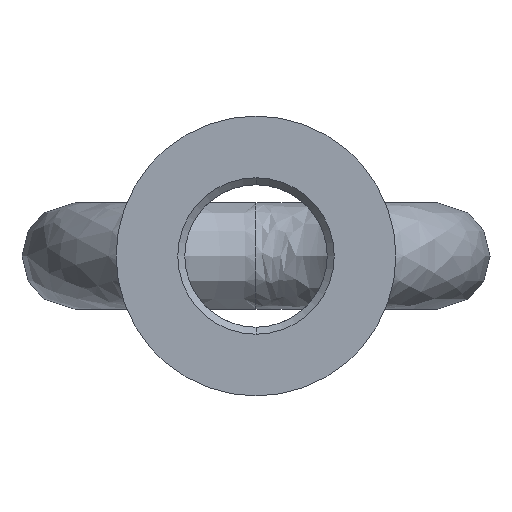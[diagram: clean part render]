
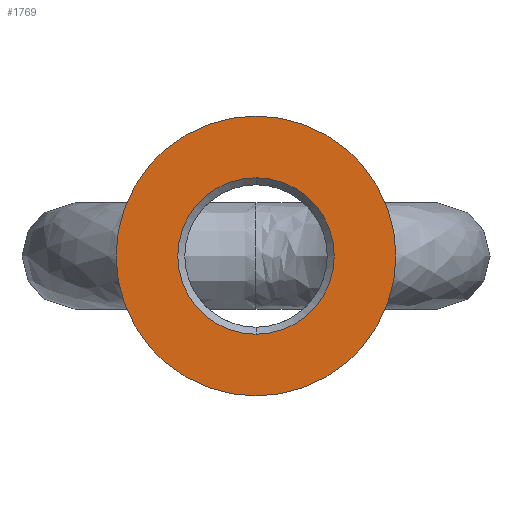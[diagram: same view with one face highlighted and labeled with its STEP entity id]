
A CAD part, front view. The second image highlights one B-rep face of the part: STEP entity #1769.
In plain terms, the highlighted planar face has unit normal (0, -1, 0).
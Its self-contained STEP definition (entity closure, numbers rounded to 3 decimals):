
#130 = DIRECTION ( 'NONE',  ( 0., 0., -1. ) ) ;
#134 = CIRCLE ( 'NONE', #2923, 55. ) ;
#355 = DIRECTION ( 'NONE',  ( 0., 1., 0. ) ) ;
#414 = CARTESIAN_POINT ( 'NONE',  ( 0., 0., -55. ) ) ;
#419 = AXIS2_PLACEMENT_3D ( 'NONE', #850, #355, #2281 ) ;
#482 = PLANE ( 'NONE',  #801 ) ;
#662 = DIRECTION ( 'NONE',  ( 0., 0., 1. ) ) ;
#714 = CARTESIAN_POINT ( 'NONE',  ( 0., 0., 0. ) ) ;
#801 = AXIS2_PLACEMENT_3D ( 'NONE', #714, #1830, #2660 ) ;
#850 = CARTESIAN_POINT ( 'NONE',  ( 0., 0., 0. ) ) ;
#950 = CARTESIAN_POINT ( 'NONE',  ( 0., 0., -30.75 ) ) ;
#1007 = EDGE_LOOP ( 'NONE', ( #2984, #1208 ) ) ;
#1035 = CIRCLE ( 'NONE', #419, 55. ) ;
#1070 = VERTEX_POINT ( 'NONE', #950 ) ;
#1176 = CARTESIAN_POINT ( 'NONE',  ( 0., 0., 0. ) ) ;
#1208 = ORIENTED_EDGE ( 'NONE', *, *, #2538, .F. ) ;
#1280 = VERTEX_POINT ( 'NONE', #1837 ) ;
#1392 = ORIENTED_EDGE ( 'NONE', *, *, #2345, .T. ) ;
#1402 = DIRECTION ( 'NONE',  ( 0., 1., 0. ) ) ;
#1769 = ADVANCED_FACE ( 'NONE', ( #3142, #3466 ), #482, .T. ) ;
#1827 = VERTEX_POINT ( 'NONE', #414 ) ;
#1830 = DIRECTION ( 'NONE',  ( 0., -1., 0. ) ) ;
#1837 = CARTESIAN_POINT ( 'NONE',  ( 0., 0., 55. ) ) ;
#1856 = EDGE_CURVE ( 'NONE', #3524, #1070, #3028, .T. ) ;
#1942 = CIRCLE ( 'NONE', #2695, 30.75 ) ;
#1976 = DIRECTION ( 'NONE',  ( 0., 1., 0. ) ) ;
#2151 = CARTESIAN_POINT ( 'NONE',  ( 0., 0., 0. ) ) ;
#2281 = DIRECTION ( 'NONE',  ( 0., 0., 1. ) ) ;
#2345 = EDGE_CURVE ( 'NONE', #1070, #3524, #1942, .T. ) ;
#2373 = EDGE_CURVE ( 'NONE', #1827, #1280, #1035, .T. ) ;
#2498 = DIRECTION ( 'NONE',  ( 0., 0., -1. ) ) ;
#2506 = ORIENTED_EDGE ( 'NONE', *, *, #1856, .T. ) ;
#2524 = CARTESIAN_POINT ( 'NONE',  ( 0., 0., 30.75 ) ) ;
#2538 = EDGE_CURVE ( 'NONE', #1280, #1827, #134, .T. ) ;
#2660 = DIRECTION ( 'NONE',  ( 0., 0., -1. ) ) ;
#2695 = AXIS2_PLACEMENT_3D ( 'NONE', #2151, #1976, #2498 ) ;
#2877 = DIRECTION ( 'NONE',  ( 0., 1., 0. ) ) ;
#2923 = AXIS2_PLACEMENT_3D ( 'NONE', #1176, #1402, #662 ) ;
#2984 = ORIENTED_EDGE ( 'NONE', *, *, #2373, .F. ) ;
#3028 = CIRCLE ( 'NONE', #3320, 30.75 ) ;
#3106 = CARTESIAN_POINT ( 'NONE',  ( 0., 0., 0. ) ) ;
#3142 = FACE_BOUND ( 'NONE', #3274, .T. ) ;
#3274 = EDGE_LOOP ( 'NONE', ( #1392, #2506 ) ) ;
#3320 = AXIS2_PLACEMENT_3D ( 'NONE', #3106, #2877, #130 ) ;
#3466 = FACE_OUTER_BOUND ( 'NONE', #1007, .T. ) ;
#3524 = VERTEX_POINT ( 'NONE', #2524 ) ;
